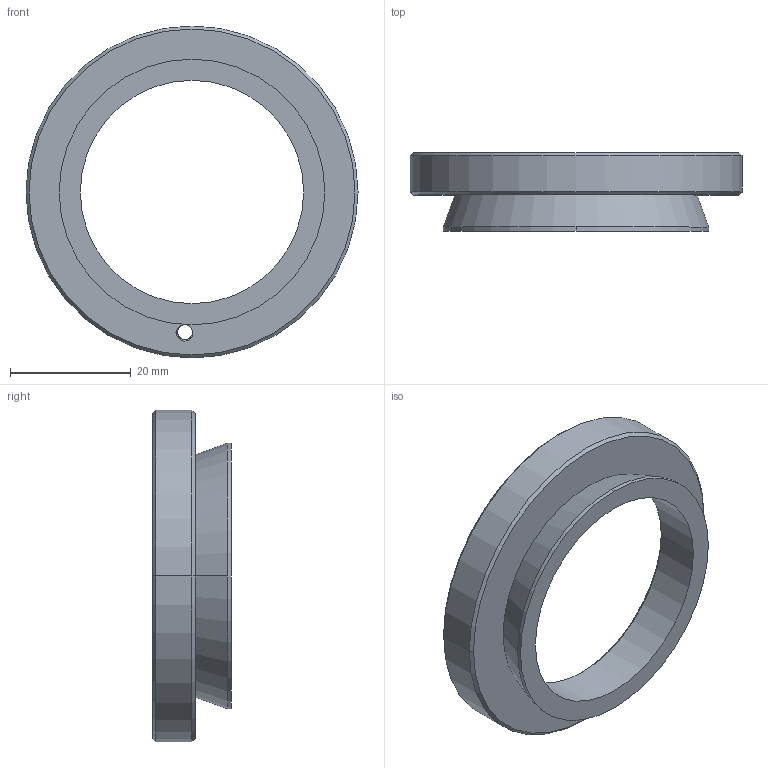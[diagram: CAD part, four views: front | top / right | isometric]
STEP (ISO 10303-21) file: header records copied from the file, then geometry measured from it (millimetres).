
FILE_DESCRIPTION((''),'2;1');
FILE_NAME('OB-SM2B','2026-07-24T14:02:52',('R&D'),(''),'CREO PARAMETRIC BY PTC INC, 2021063','CREO PARAMETRIC BY PTC INC, 2021063','');
FILE_SCHEMA(('CONFIG_CONTROL_DESIGN'));
Length unit declared in the file: millimetre
Products named in the file (1): OB-SM2B
Bounding box: 55 x 13 x 55 mm (x, y, z)
Volume: 5966.1 mm3; surface area: 6911 mm2
Topology: 1 solids, 1 shells, 55 faces, 156 edges, 106 vertices
Faces by surface type: cylinder 26, bspline 12, cone 11, plane 6
Entity records: 5419 total; most frequent: CARTESIAN_POINT 4048, ORIENTED_EDGE 312, DIRECTION 226, EDGE_CURVE 156, VERTEX_POINT 106, AXIS2_PLACEMENT_3D 91, B_SPLINE_CURVE_WITH_KNOTS 64, EDGE_LOOP 62
